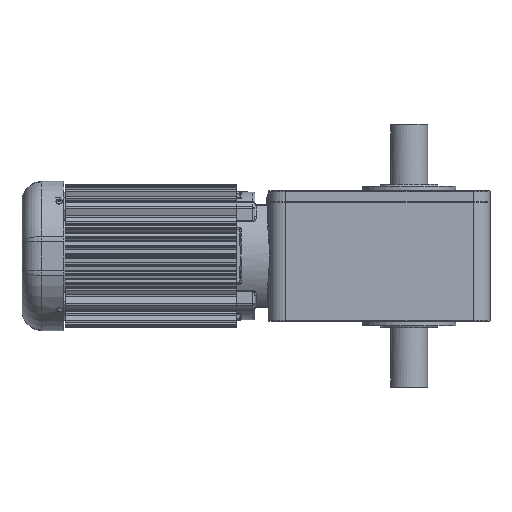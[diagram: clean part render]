
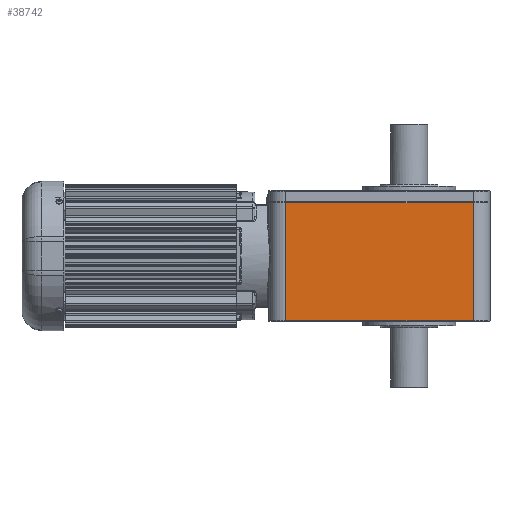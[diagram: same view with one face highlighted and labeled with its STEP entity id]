
A CAD part, front view. The second image highlights one B-rep face of the part: STEP entity #38742.
In plain terms, the highlighted planar face has unit normal (0, -1, 0).
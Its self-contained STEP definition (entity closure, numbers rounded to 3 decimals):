
#2902=LINE('',#69005,#5453);
#2922=LINE('',#69074,#5473);
#3050=LINE('',#72167,#5601);
#3207=LINE('',#73535,#5758);
#5453=VECTOR('',#51781,202.);
#5473=VECTOR('',#51855,202.);
#5601=VECTOR('',#52749,127.);
#5758=VECTOR('',#53372,127.);
#9155=FACE_OUTER_BOUND('',#11501,.T.);
#11501=EDGE_LOOP('',(#32879,#32880,#32881,#32882));
#16781=VERTEX_POINT('',#68999);
#16782=VERTEX_POINT('',#69003);
#16803=VERTEX_POINT('',#69068);
#16804=VERTEX_POINT('',#69072);
#21713=EDGE_CURVE('',#16782,#16781,#2902,.T.);
#21748=EDGE_CURVE('',#16804,#16803,#2922,.T.);
#22211=EDGE_CURVE('',#16782,#16803,#3050,.T.);
#22500=EDGE_CURVE('',#16781,#16804,#3207,.T.);
#32879=ORIENTED_EDGE('',*,*,#21713,.F.);
#32880=ORIENTED_EDGE('',*,*,#22211,.T.);
#32881=ORIENTED_EDGE('',*,*,#21748,.F.);
#32882=ORIENTED_EDGE('',*,*,#22500,.F.);
#34831=PLANE('',#42928);
#38742=ADVANCED_FACE('',(#9155),#34831,.T.);
#42928=AXIS2_PLACEMENT_3D('',#73536,#53373,#53374);
#51781=DIRECTION('',(1.,0.,0.));
#51855=DIRECTION('',(-1.,0.,0.));
#52749=DIRECTION('',(0.,0.,-1.));
#53372=DIRECTION('',(0.,0.,-1.));
#53373=DIRECTION('center_axis',(0.,-1.,0.));
#53374=DIRECTION('ref_axis',(0.,0.,-1.));
#68999=CARTESIAN_POINT('',(69.,-124.,57.5));
#69003=CARTESIAN_POINT('',(-133.,-124.,57.5));
#69005=CARTESIAN_POINT('',(-133.,-124.,57.5));
#69068=CARTESIAN_POINT('',(-133.,-124.,-69.5));
#69072=CARTESIAN_POINT('',(69.,-124.,-69.5));
#69074=CARTESIAN_POINT('',(69.,-124.,-69.5));
#72167=CARTESIAN_POINT('',(-133.,-124.,57.5));
#73535=CARTESIAN_POINT('',(69.,-124.,57.5));
#73536=CARTESIAN_POINT('Origin',(69.,-124.,0.));
